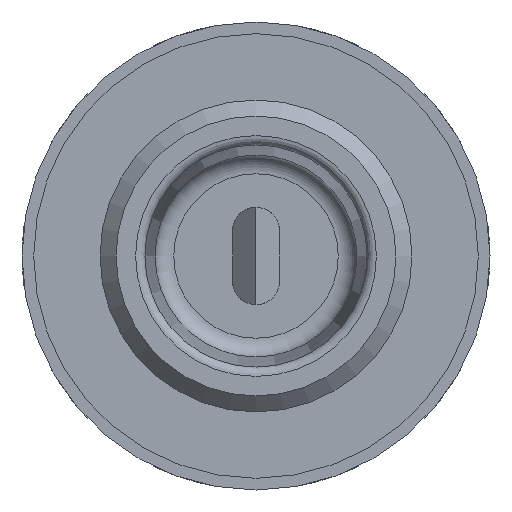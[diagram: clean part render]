
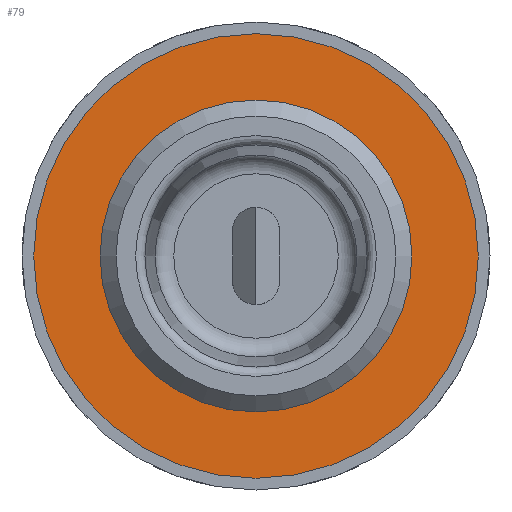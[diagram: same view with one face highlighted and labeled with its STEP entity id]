
A CAD part, left-side view. The second image highlights one B-rep face of the part: STEP entity #79.
In plain terms, the highlighted planar face has unit normal (-1, 0, 0).
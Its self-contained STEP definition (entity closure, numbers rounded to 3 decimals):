
#79 = ADVANCED_FACE( '', ( #148, #149 ), #150, .T. );
#148 = FACE_BOUND( '', #287, .T. );
#149 = FACE_OUTER_BOUND( '', #288, .T. );
#150 = PLANE( '', #289 );
#287 = EDGE_LOOP( '', ( #440 ) );
#288 = EDGE_LOOP( '', ( #441 ) );
#289 = AXIS2_PLACEMENT_3D( '', #442, #443, #444 );
#440 = ORIENTED_EDGE( '', *, *, #909, .T. );
#441 = ORIENTED_EDGE( '', *, *, #910, .F. );
#442 = CARTESIAN_POINT( '', ( 8.1, 11.875, 0. ) );
#443 = DIRECTION( '', ( -1., 0., 0. ) );
#444 = DIRECTION( '', ( 0., -1., 0. ) );
#909 = EDGE_CURVE( '', #1066, #1066, #1067, .T. );
#910 = EDGE_CURVE( '', #1068, #1068, #1069, .T. );
#1066 = VERTEX_POINT( '', #1326 );
#1067 = CIRCLE( '', #1327, 8.331 );
#1068 = VERTEX_POINT( '', #1328 );
#1069 = CIRCLE( '', #1329, 11.875 );
#1326 = CARTESIAN_POINT( '', ( 8.1, 8.331, 0. ) );
#1327 = AXIS2_PLACEMENT_3D( '', #1700, #1701, #1702 );
#1328 = CARTESIAN_POINT( '', ( 8.1, 11.875, 0. ) );
#1329 = AXIS2_PLACEMENT_3D( '', #1703, #1704, #1705 );
#1700 = CARTESIAN_POINT( '', ( 8.1, 0., 0. ) );
#1701 = DIRECTION( '', ( 1., 0., 0. ) );
#1702 = DIRECTION( '', ( 0., 1., 0. ) );
#1703 = CARTESIAN_POINT( '', ( 8.1, 0., 0. ) );
#1704 = DIRECTION( '', ( 1., 0., 0. ) );
#1705 = DIRECTION( '', ( 0., 1., 0. ) );
